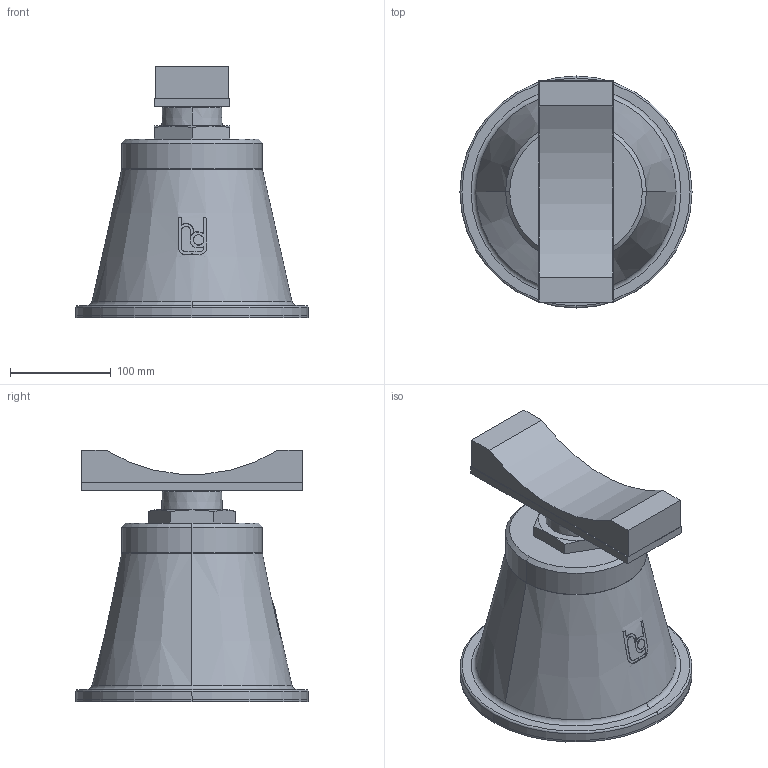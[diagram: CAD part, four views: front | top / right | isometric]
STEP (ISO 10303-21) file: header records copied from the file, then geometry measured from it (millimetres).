
FILE_DESCRIPTION(('STEP AP214'),'1');
FILE_NAME('RSRFN_DN300.stp','2018-06-29T13:02:38',(' '),(' '),'Spatial InterOp 3D',' ',' ');
FILE_SCHEMA(('automotive_design'));
Length unit declared in the file: millimetre
Products named in the file (6): 1; 2; 3; 4; 5; 6
Bounding box: 230 x 230 x 249 mm (x, y, z)
Volume: 5026873.5 mm3; surface area: 402344.7 mm2
Topology: 6 solids, 6 shells, 117 faces, 282 edges, 182 vertices
Faces by surface type: plane 49, cylinder 37, cone 23, torus 8
Entity records: 4852 total; most frequent: CARTESIAN_POINT 1045, DIRECTION 591, ORIENTED_EDGE 564, EDGE_CURVE 282, AXIS2_PLACEMENT_3D 228, VERTEX_POINT 182, LINE 135, VECTOR 135
